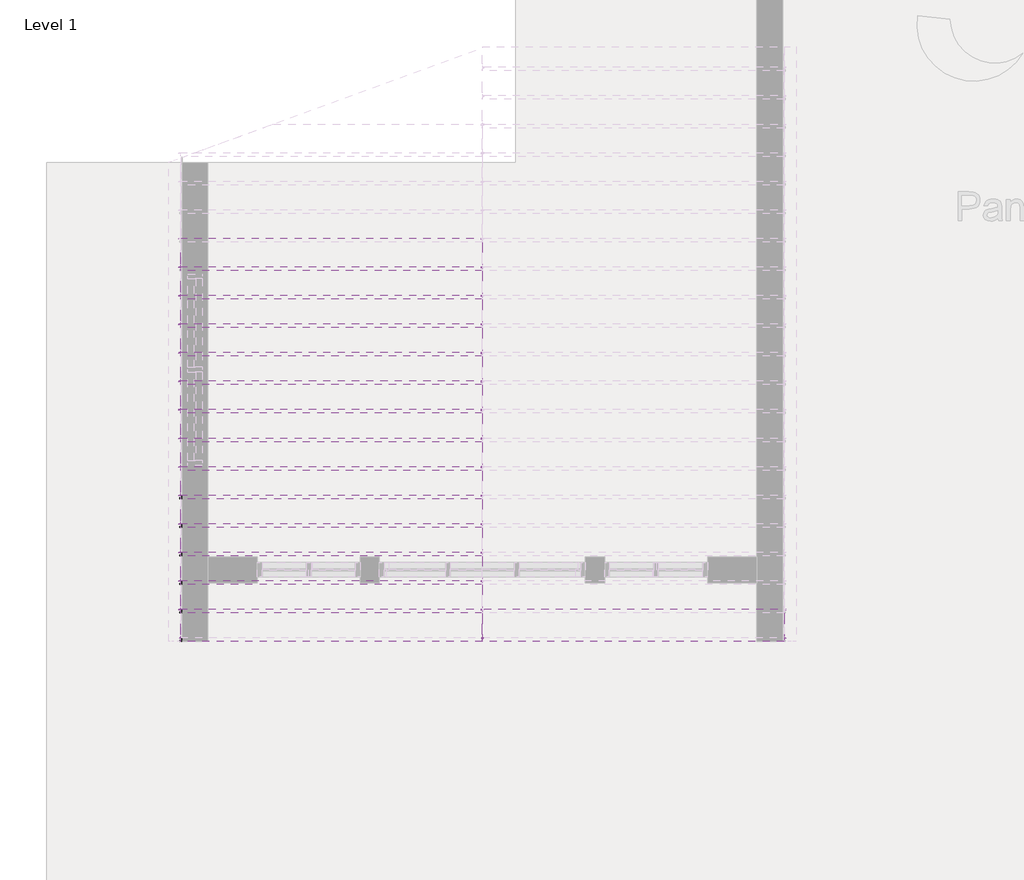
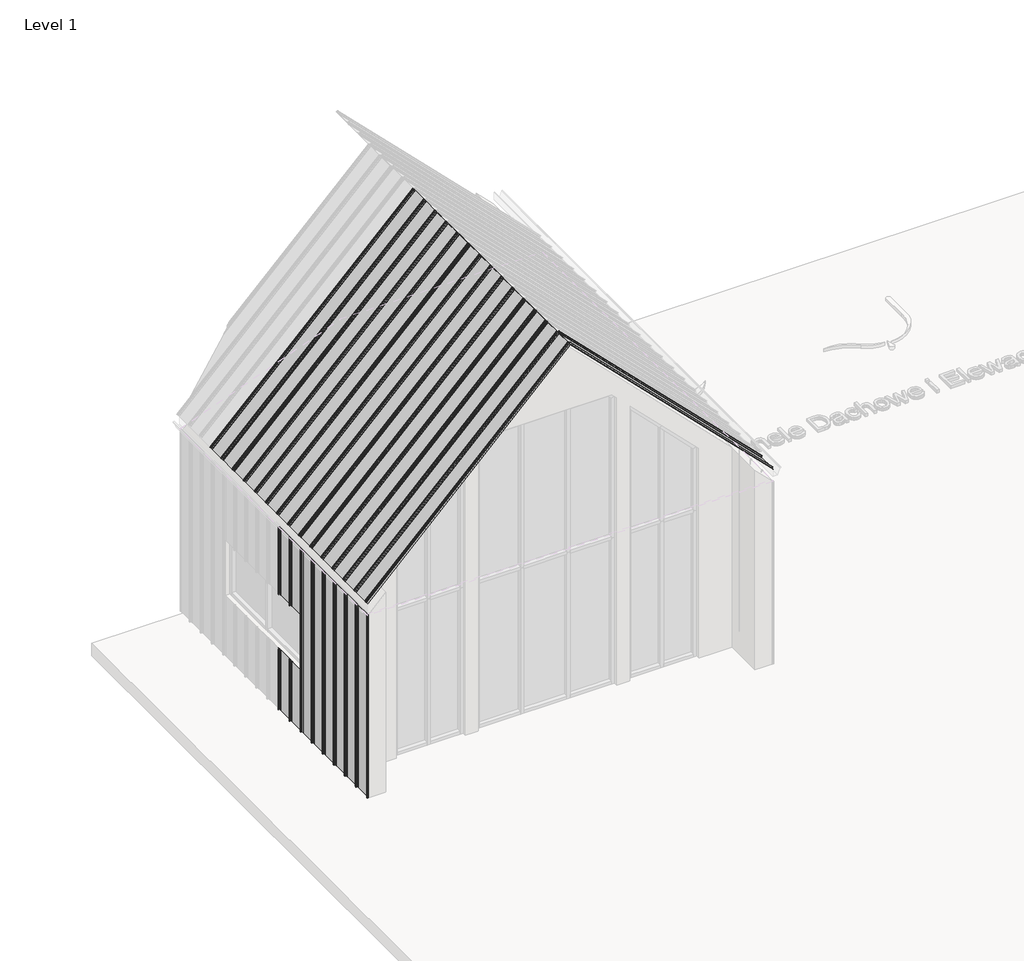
# One storey, part 3 of 24: 23 proxies.
"""IFC4 building model written with IfcOpenShell, lengths in millimetres."""

from ifc_helpers import new_model, si_unit, point, frame, frame_2d, origin, place, context, project, spatial, polyline, circle_curve, trimmed, segment, composite_curve, outline, extrude, transform, mapped, element, save
from components import aqua_slim_97a0cb55, aqua_slim_27351003

model = new_model("IFC4")

# Units and contexts
model_context = context("Model", 3, world=origin())
ifc_project = project(units=[si_unit("LENGTHUNIT", "METRE", prefix="MILLI")], contexts=[model_context])

# Site, building, storey
site = spatial("IfcSite", under=ifc_project)
building = spatial("IfcBuilding", under=site)
storey = spatial("IfcBuildingStorey", under=building, Name="Level 1", Elevation=0.0)

# Proxies
placement = place(None, origin())
element("IfcBuildingElementProxy", 1, Name="AQUAPLAST - Panel Dachowy i Elewacyjny Aqua Slim : Aqua Slim", ObjectType="AQUAPLAST - Panel Dachowy i Elewacyjny Aqua Slim : Aqua Slim", at=placement, inside=storey, context=model_context, shape_type="SweptSolid", body=[
    extrude(outline(polyline([(0.0, 227.2000503), (4454.0, 227.2000503), (4454.0, 0.0), (0.0, 0.0), (0.0, 227.2000503)])), frame((-5286.5167864, 8737.4302375, 6945.4435021), z_axis=(0.7071067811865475, 0.0, 0.7071067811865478), x_axis=(0.7071067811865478, 0.0, -0.7071067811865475)), (0.0, 0.0, 1.0), 0.8),
    extrude(outline(composite_curve([segment(polyline([(1.6, -36.6), (0.8, -40.1), (0.0, -40.1), (0.8000601, -36.6), (0.8000601, -12.7000752)]), True, "CONTINUOUS"), segment(trimmed(circle_curve(frame_2d((1.2999699, -12.7000752)), 0.4999098), [point((0.8000601, -12.7000752))], [point((1.2999699, -12.2001654))], False, "CARTESIAN"), True, "CONTINUOUS"), segment(polyline([(1.2999699, -12.2001654), (23.7003195, -12.2001654)]), True, "CONTINUOUS"), segment(trimmed(circle_curve(frame_2d((23.7003195, -11.6998422)), 0.5003233), [point((23.7003195, -12.2001654))], [point((24.2006428, -11.6998422))], True, "CARTESIAN"), True, "CONTINUOUS"), segment(polyline([(24.2006428, -11.6998422), (24.2006428, -1.2033228)]), True, "CONTINUOUS"), segment(trimmed(circle_curve(frame_2d((23.6993591, -1.2033228)), 0.5012837), [point((24.2006428, -1.2033228))], [point((23.6993591, -0.7020391))], True, "CARTESIAN"), True, "CONTINUOUS"), segment(polyline([(23.6993591, -0.7020391), (9.7850119, -0.7020391)]), True, "CONTINUOUS"), segment(trimmed(circle_curve(frame_2d((9.7850119, -1.6460516)), 0.9440125), [point((9.7850119, -0.7020391))], [point((8.9478642, -1.2097679))], True, "CARTESIAN"), True, "CONTINUOUS"), segment(trimmed(circle_curve(frame_2d((5.4137845, -0.6808077)), 3.5734462), [point((8.9478642, -1.2097679))], [point((1.8403383, -0.6808077))], False, "CARTESIAN"), True, "CONTINUOUS"), segment(polyline([(1.8403383, -0.6808077), (2.6405793, -0.6808077)]), True, "CONTINUOUS"), segment(trimmed(circle_curve(frame_2d((5.3847864, -0.6808077)), 2.7442071), [point((2.6405793, -0.6808077))], [point((8.1289934, -0.6808077))], True, "CARTESIAN"), True, "CONTINUOUS"), segment(trimmed(circle_curve(frame_2d((8.8039224, -0.6749544)), 0.6749543), [point((8.1289934, -0.6808077))], [point((8.8039224, 0.0))], False, "CARTESIAN"), True, "CONTINUOUS"), segment(polyline([(8.8039224, 0.0), (24.5, 0.0)]), True, "CONTINUOUS"), segment(trimmed(circle_curve(frame_2d((24.5, -0.5)), 0.5), [point((24.5, 0.0))], [point((25.0, -0.5))], False, "CARTESIAN"), True, "CONTINUOUS"), segment(polyline([(25.0, -0.5), (25.0, -12.5)]), True, "CONTINUOUS"), segment(trimmed(circle_curve(frame_2d((24.5, -12.5)), 0.5), [point((25.0, -12.5))], [point((24.5, -13.0))], False, "CARTESIAN"), True, "CONTINUOUS"), segment(polyline([(24.5, -13.0), (2.1, -13.0)]), True, "CONTINUOUS"), segment(trimmed(circle_curve(frame_2d((2.1, -13.5)), 0.5), [point((2.1, -13.0))], [point((1.6, -13.5))], True, "CARTESIAN"), True, "CONTINUOUS"), segment(polyline([(1.6, -13.5), (1.6, -36.6)]), True, "CONTINUOUS")], self_intersect=False)), frame((-2137.063183, 9004.7302878, 3795.9898987), z_axis=(-0.7071067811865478, 0.0, 0.7071067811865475), x_axis=(0.7071067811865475, 0.0, 0.7071067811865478)), (0.0, 0.0, 1.0), 4454.0),
    extrude(outline(composite_curve([segment(polyline([(0.8, 0.0), (0.0, 0.0), (0.0, 30.3277327)]), True, "CONTINUOUS"), segment(trimmed(circle_curve(frame_2d((0.7400208, 30.3277327)), 0.7400208), [point((0.0, 30.3277327))], [point((0.6241817, 31.0586308))], False, "CARTESIAN"), True, "CONTINUOUS"), segment(polyline([(0.6241817, 31.0586308), (18.4803327, 33.8886302)]), True, "CONTINUOUS"), segment(trimmed(circle_curve(frame_2d((18.1818617, 35.771861)), 1.9067363), [point((18.4803327, 33.8886302))], [point((19.1352298, 37.4231431))], True, "CARTESIAN"), True, "CONTINUOUS"), segment(polyline([(19.1352298, 37.4231431), (11.8934079, 40.3349068)]), True, "CONTINUOUS"), segment(trimmed(circle_curve(frame_2d((11.2676679, 38.7786343)), 1.6773594), [point((11.8934079, 40.3349068))], [point((9.7513874, 39.4958707))], True, "CARTESIAN"), True, "CONTINUOUS"), segment(trimmed(circle_curve(frame_2d((5.5014361, 41.5061979)), 4.7014361), [point((9.7513874, 39.4958707))], [point((0.8, 41.5061979))], False, "CARTESIAN"), True, "CONTINUOUS"), segment(polyline([(0.8, 41.5061979), (0.8, 69.1999497), (0.0, 72.6999497), (0.8, 72.6999497), (1.6, 69.1999497), (1.6, 41.3470224)]), True, "CONTINUOUS"), segment(trimmed(circle_curve(frame_2d((5.4667311, 41.3470224)), 3.8667311), [point((1.6, 41.3470224))], [point((9.0024093, 39.7815866))], True, "CARTESIAN"), True, "CONTINUOUS"), segment(trimmed(circle_curve(frame_2d((11.2676679, 38.7786343)), 2.4773594), [point((9.0024093, 39.7815866))], [point((12.1941629, 41.0762236))], False, "CARTESIAN"), True, "CONTINUOUS"), segment(polyline([(12.1941629, 41.0762236), (19.5352299, 38.1159634)]), True, "CONTINUOUS"), segment(trimmed(circle_curve(frame_2d((18.1818617, 35.771861)), 2.7067363), [point((19.5352299, 38.1159634))], [point((18.7653554, 33.1287651))], False, "CARTESIAN"), True, "CONTINUOUS"), segment(polyline([(18.7653554, 33.1287651), (1.3501315, 30.0958084)]), True, "CONTINUOUS"), segment(trimmed(circle_curve(frame_2d((1.4640676, 29.441588)), 0.6640676), [point((1.3501315, 30.0958084))], [point((0.8, 29.441588))], True, "CARTESIAN"), True, "CONTINUOUS"), segment(polyline([(0.8, 29.441588), (0.8, 0.0)]), True, "CONTINUOUS")], self_intersect=False)), frame((-2137.063183, 8664.7302878, 3795.9898987), z_axis=(-0.7071067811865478, 0.0, 0.7071067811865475), x_axis=(0.7071067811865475, 0.0, 0.7071067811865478)), (0.0, 0.0, 1.0), 4454.0),
])
element("IfcBuildingElementProxy", 2, Name="AQUAPLAST - Panel Dachowy i Elewacyjny Aqua Slim : Aqua Slim", ObjectType="AQUAPLAST - Panel Dachowy i Elewacyjny Aqua Slim : Aqua Slim", at=placement, inside=storey, context=model_context, shape_type="SweptSolid", body=[
    extrude(outline(polyline([(10492.1494801, 3597.0), (10719.3495304, 3597.0), (10719.3495304, 2498.0), (10504.7302878, 2498.0), (10504.7302878, 1598.0), (10719.3495304, 1598.0), (10719.3495304, 600.0), (10492.1494801, 600.0), (10492.1494801, 3597.0)])), frame((-8422.863183, 0.0, 0.0), z_axis=(1.0, 0.0, 0.0), x_axis=(0.0, 1.0, 0.0)), (0.0, 0.0, 1.0), 0.8),
    extrude(outline(composite_curve([segment(polyline([(-8423.663183, 10488.6494801), (-8422.863183, 10492.1494801), (-8422.063183, 10492.1494801), (-8422.8632432, 10488.6494801), (-8422.8632432, 10464.7495553)]), True, "CONTINUOUS"), segment(trimmed(circle_curve(frame_2d((-8423.363153, 10464.7495553)), 0.4999098), [point((-8422.8632432, 10464.7495553))], [point((-8423.363153, 10464.2496455))], False, "CARTESIAN"), True, "CONTINUOUS"), segment(polyline([(-8423.363153, 10464.2496455), (-8445.7635025, 10464.2496455)]), True, "CONTINUOUS"), segment(trimmed(circle_curve(frame_2d((-8445.7635025, 10463.7493222)), 0.5003233), [point((-8445.7635025, 10464.2496455))], [point((-8446.2638258, 10463.7493222))], True, "CARTESIAN"), True, "CONTINUOUS"), segment(polyline([(-8446.2638258, 10463.7493222), (-8446.2638258, 10453.2528028)]), True, "CONTINUOUS"), segment(trimmed(circle_curve(frame_2d((-8445.7625421, 10453.2528028)), 0.5012837), [point((-8446.2638258, 10453.2528028))], [point((-8445.7625421, 10452.7515191))], True, "CARTESIAN"), True, "CONTINUOUS"), segment(polyline([(-8445.7625421, 10452.7515191), (-8431.8481949, 10452.7515191)]), True, "CONTINUOUS"), segment(trimmed(circle_curve(frame_2d((-8431.8481949, 10453.6955317)), 0.9440125), [point((-8431.8481949, 10452.7515191))], [point((-8431.0110473, 10453.259248))], True, "CARTESIAN"), True, "CONTINUOUS"), segment(trimmed(circle_curve(frame_2d((-8427.4769676, 10452.7302878)), 3.5734462), [point((-8431.0110473, 10453.259248))], [point((-8423.9035214, 10452.7302878))], False, "CARTESIAN"), True, "CONTINUOUS"), segment(polyline([(-8423.9035214, 10452.7302878), (-8424.7037623, 10452.7302878)]), True, "CONTINUOUS"), segment(trimmed(circle_curve(frame_2d((-8427.4479694, 10452.7302878)), 2.7442071), [point((-8424.7037623, 10452.7302878))], [point((-8430.1921764, 10452.7302878))], True, "CARTESIAN"), True, "CONTINUOUS"), segment(trimmed(circle_curve(frame_2d((-8430.8671054, 10452.7244344)), 0.6749543), [point((-8430.1921764, 10452.7302878))], [point((-8430.8671054, 10452.0494801))], False, "CARTESIAN"), True, "CONTINUOUS"), segment(polyline([(-8430.8671054, 10452.0494801), (-8446.563183, 10452.0494801)]), True, "CONTINUOUS"), segment(trimmed(circle_curve(frame_2d((-8446.563183, 10452.5494801)), 0.5), [point((-8446.563183, 10452.0494801))], [point((-8447.063183, 10452.5494801))], False, "CARTESIAN"), True, "CONTINUOUS"), segment(polyline([(-8447.063183, 10452.5494801), (-8447.063183, 10464.5494801)]), True, "CONTINUOUS"), segment(trimmed(circle_curve(frame_2d((-8446.563183, 10464.5494801)), 0.5), [point((-8447.063183, 10464.5494801))], [point((-8446.563183, 10465.0494801))], False, "CARTESIAN"), True, "CONTINUOUS"), segment(polyline([(-8446.563183, 10465.0494801), (-8424.163183, 10465.0494801)]), True, "CONTINUOUS"), segment(trimmed(circle_curve(frame_2d((-8424.163183, 10465.5494801)), 0.5), [point((-8424.163183, 10465.0494801))], [point((-8423.663183, 10465.5494801))], True, "CARTESIAN"), True, "CONTINUOUS"), segment(polyline([(-8423.663183, 10465.5494801), (-8423.663183, 10488.6494801)]), True, "CONTINUOUS")], self_intersect=False)), frame((0.0, 0.0, 600.0), z_axis=(0.0, 0.0, 1.0), x_axis=(1.0, 0.0, 0.0)), (0.0, 0.0, 1.0), 2997.0),
    extrude(outline(composite_curve([segment(polyline([(-8422.863183, 10792.0494801), (-8422.063183, 10792.0494801), (-8422.063183, 10761.7217474)]), True, "CONTINUOUS"), segment(trimmed(circle_curve(frame_2d((-8422.8032039, 10761.7217474)), 0.7400208), [point((-8422.063183, 10761.7217474))], [point((-8422.6873647, 10760.9908492))], False, "CARTESIAN"), True, "CONTINUOUS"), segment(polyline([(-8422.6873647, 10760.9908492), (-8440.5435157, 10758.1608498)]), True, "CONTINUOUS"), segment(trimmed(circle_curve(frame_2d((-8440.2450447, 10756.277619)), 1.9067363), [point((-8440.5435157, 10758.1608498))], [point((-8441.1984129, 10754.626337))], True, "CARTESIAN"), True, "CONTINUOUS"), segment(polyline([(-8441.1984129, 10754.626337), (-8433.9565909, 10751.7145733)]), True, "CONTINUOUS"), segment(trimmed(circle_curve(frame_2d((-8433.3308509, 10753.2708458)), 1.6773594), [point((-8433.9565909, 10751.7145733))], [point((-8431.8145704, 10752.5536094))], True, "CARTESIAN"), True, "CONTINUOUS"), segment(trimmed(circle_curve(frame_2d((-8427.5646191, 10750.5432822)), 4.7014361), [point((-8431.8145704, 10752.5536094))], [point((-8422.863183, 10750.5432822))], False, "CARTESIAN"), True, "CONTINUOUS"), segment(polyline([(-8422.863183, 10750.5432822), (-8422.863183, 10722.8495304), (-8422.063183, 10719.3495304), (-8422.863183, 10719.3495304), (-8423.663183, 10722.8495304), (-8423.663183, 10750.7024576)]), True, "CONTINUOUS"), segment(trimmed(circle_curve(frame_2d((-8427.5299142, 10750.7024576)), 3.8667311), [point((-8423.663183, 10750.7024576))], [point((-8431.0655924, 10752.2678934))], True, "CARTESIAN"), True, "CONTINUOUS"), segment(trimmed(circle_curve(frame_2d((-8433.3308509, 10753.2708458)), 2.4773594), [point((-8431.0655924, 10752.2678934))], [point((-8434.257346, 10750.9732565))], False, "CARTESIAN"), True, "CONTINUOUS"), segment(polyline([(-8434.257346, 10750.9732565), (-8441.5984129, 10753.9335166)]), True, "CONTINUOUS"), segment(trimmed(circle_curve(frame_2d((-8440.2450447, 10756.277619)), 2.7067363), [point((-8441.5984129, 10753.9335166))], [point((-8440.8285384, 10758.920715))], False, "CARTESIAN"), True, "CONTINUOUS"), segment(polyline([(-8440.8285384, 10758.920715), (-8423.4133146, 10761.9536717)]), True, "CONTINUOUS"), segment(trimmed(circle_curve(frame_2d((-8423.5272506, 10762.6078921)), 0.6640676), [point((-8423.4133146, 10761.9536717))], [point((-8422.863183, 10762.6078921))], True, "CARTESIAN"), True, "CONTINUOUS"), segment(polyline([(-8422.863183, 10762.6078921), (-8422.863183, 10792.0494801)]), True, "CONTINUOUS")], self_intersect=False)), frame((0.0, 0.0, 2498.0), z_axis=(0.0, 0.0, 1.0), x_axis=(1.0, 0.0, 0.0)), (0.0, 0.0, 1.0), 1099.0),
    extrude(outline(composite_curve([segment(polyline([(-8422.863183, 10792.0494801), (-8422.063183, 10792.0494801), (-8422.063183, 10761.7217474)]), True, "CONTINUOUS"), segment(trimmed(circle_curve(frame_2d((-8422.8032039, 10761.7217474)), 0.7400208), [point((-8422.063183, 10761.7217474))], [point((-8422.6873647, 10760.9908492))], False, "CARTESIAN"), True, "CONTINUOUS"), segment(polyline([(-8422.6873647, 10760.9908492), (-8440.5435157, 10758.1608498)]), True, "CONTINUOUS"), segment(trimmed(circle_curve(frame_2d((-8440.2450447, 10756.277619)), 1.9067363), [point((-8440.5435157, 10758.1608498))], [point((-8441.1984129, 10754.626337))], True, "CARTESIAN"), True, "CONTINUOUS"), segment(polyline([(-8441.1984129, 10754.626337), (-8433.9565909, 10751.7145733)]), True, "CONTINUOUS"), segment(trimmed(circle_curve(frame_2d((-8433.3308509, 10753.2708458)), 1.6773594), [point((-8433.9565909, 10751.7145733))], [point((-8431.8145704, 10752.5536094))], True, "CARTESIAN"), True, "CONTINUOUS"), segment(trimmed(circle_curve(frame_2d((-8427.5646191, 10750.5432822)), 4.7014361), [point((-8431.8145704, 10752.5536094))], [point((-8422.863183, 10750.5432822))], False, "CARTESIAN"), True, "CONTINUOUS"), segment(polyline([(-8422.863183, 10750.5432822), (-8422.863183, 10722.8495304), (-8422.063183, 10719.3495304), (-8422.863183, 10719.3495304), (-8423.663183, 10722.8495304), (-8423.663183, 10750.7024576)]), True, "CONTINUOUS"), segment(trimmed(circle_curve(frame_2d((-8427.5299142, 10750.7024576)), 3.8667311), [point((-8423.663183, 10750.7024576))], [point((-8431.0655924, 10752.2678934))], True, "CARTESIAN"), True, "CONTINUOUS"), segment(trimmed(circle_curve(frame_2d((-8433.3308509, 10753.2708458)), 2.4773594), [point((-8431.0655924, 10752.2678934))], [point((-8434.257346, 10750.9732565))], False, "CARTESIAN"), True, "CONTINUOUS"), segment(polyline([(-8434.257346, 10750.9732565), (-8441.5984129, 10753.9335166)]), True, "CONTINUOUS"), segment(trimmed(circle_curve(frame_2d((-8440.2450447, 10756.277619)), 2.7067363), [point((-8441.5984129, 10753.9335166))], [point((-8440.8285384, 10758.920715))], False, "CARTESIAN"), True, "CONTINUOUS"), segment(polyline([(-8440.8285384, 10758.920715), (-8423.4133146, 10761.9536717)]), True, "CONTINUOUS"), segment(trimmed(circle_curve(frame_2d((-8423.5272506, 10762.6078921)), 0.6640676), [point((-8423.4133146, 10761.9536717))], [point((-8422.863183, 10762.6078921))], True, "CARTESIAN"), True, "CONTINUOUS"), segment(polyline([(-8422.863183, 10762.6078921), (-8422.863183, 10792.0494801)]), True, "CONTINUOUS")], self_intersect=False)), frame((0.0, 0.0, 600.0), z_axis=(0.0, 0.0, 1.0), x_axis=(1.0, 0.0, 0.0)), (0.0, 0.0, 1.0), 998.0),
])
element("IfcBuildingElementProxy", 3, Name="AQUAPLAST - Panel Dachowy i Elewacyjny Aqua Slim : Aqua Slim", ObjectType="AQUAPLAST - Panel Dachowy i Elewacyjny Aqua Slim : Aqua Slim", at=placement, inside=storey, context=model_context, shape_type="SweptSolid", body=[
    extrude(outline(polyline([(-8422.863183, 10790.1494801), (-8422.863183, 11017.3495304), (-8422.063183, 11017.3495304), (-8422.063183, 10790.1494801), (-8422.863183, 10790.1494801)])), frame((0.0, 0.0, 2498.0), z_axis=(0.0, 0.0, 1.0), x_axis=(1.0, 0.0, 0.0)), (0.0, 0.0, 1.0), 1099.0),
    extrude(outline(polyline([(-8422.863183, 10790.1494801), (-8422.863183, 11017.3495304), (-8422.063183, 11017.3495304), (-8422.063183, 10790.1494801), (-8422.863183, 10790.1494801)])), frame((0.0, 0.0, 600.0), z_axis=(0.0, 0.0, 1.0), x_axis=(1.0, 0.0, 0.0)), (0.0, 0.0, 1.0), 998.0),
    extrude(outline(composite_curve([segment(polyline([(-8422.063183, 10790.1494801), (-8422.8632432, 10786.6494801), (-8422.8632432, 10762.7495553)]), True, "CONTINUOUS"), segment(trimmed(circle_curve(frame_2d((-8423.363153, 10762.7495553)), 0.4999098), [point((-8422.8632432, 10762.7495553))], [point((-8423.363153, 10762.2496455))], False, "CARTESIAN"), True, "CONTINUOUS"), segment(polyline([(-8423.363153, 10762.2496455), (-8445.7635025, 10762.2496455)]), True, "CONTINUOUS"), segment(trimmed(circle_curve(frame_2d((-8445.7635025, 10761.7493222)), 0.5003233), [point((-8445.7635025, 10762.2496455))], [point((-8446.2638258, 10761.7493222))], True, "CARTESIAN"), True, "CONTINUOUS"), segment(polyline([(-8446.2638258, 10761.7493222), (-8446.2638258, 10751.2528028)]), True, "CONTINUOUS"), segment(trimmed(circle_curve(frame_2d((-8445.7625421, 10751.2528028)), 0.5012837), [point((-8446.2638258, 10751.2528028))], [point((-8445.7625421, 10750.7515191))], True, "CARTESIAN"), True, "CONTINUOUS"), segment(polyline([(-8445.7625421, 10750.7515191), (-8431.8481949, 10750.7515191)]), True, "CONTINUOUS"), segment(trimmed(circle_curve(frame_2d((-8431.8481949, 10751.6955317)), 0.9440125), [point((-8431.8481949, 10750.7515191))], [point((-8431.0110473, 10751.259248))], True, "CARTESIAN"), True, "CONTINUOUS"), segment(trimmed(circle_curve(frame_2d((-8427.4769676, 10750.7302878)), 3.5734462), [point((-8431.0110473, 10751.259248))], [point((-8423.9035214, 10750.7302878))], False, "CARTESIAN"), True, "CONTINUOUS"), segment(polyline([(-8423.9035214, 10750.7302878), (-8424.7037623, 10750.7302878)]), True, "CONTINUOUS"), segment(trimmed(circle_curve(frame_2d((-8427.4479694, 10750.7302878)), 2.7442071), [point((-8424.7037623, 10750.7302878))], [point((-8430.1921764, 10750.7302878))], True, "CARTESIAN"), True, "CONTINUOUS"), segment(trimmed(circle_curve(frame_2d((-8430.8671054, 10750.7244344)), 0.6749543), [point((-8430.1921764, 10750.7302878))], [point((-8430.8671054, 10750.0494801))], False, "CARTESIAN"), True, "CONTINUOUS"), segment(polyline([(-8430.8671054, 10750.0494801), (-8446.563183, 10750.0494801)]), True, "CONTINUOUS"), segment(trimmed(circle_curve(frame_2d((-8446.563183, 10750.5494801)), 0.5), [point((-8446.563183, 10750.0494801))], [point((-8447.063183, 10750.5494801))], False, "CARTESIAN"), True, "CONTINUOUS"), segment(polyline([(-8447.063183, 10750.5494801), (-8447.063183, 10762.5494801)]), True, "CONTINUOUS"), segment(trimmed(circle_curve(frame_2d((-8446.563183, 10762.5494801)), 0.5), [point((-8447.063183, 10762.5494801))], [point((-8446.563183, 10763.0494801))], False, "CARTESIAN"), True, "CONTINUOUS"), segment(polyline([(-8446.563183, 10763.0494801), (-8424.163183, 10763.0494801)]), True, "CONTINUOUS"), segment(trimmed(circle_curve(frame_2d((-8424.163183, 10763.5494801)), 0.5), [point((-8424.163183, 10763.0494801))], [point((-8423.663183, 10763.5494801))], True, "CARTESIAN"), True, "CONTINUOUS"), segment(polyline([(-8423.663183, 10763.5494801), (-8423.663183, 10786.6494801), (-8422.863183, 10790.1494801), (-8422.063183, 10790.1494801)]), True, "CONTINUOUS")], self_intersect=False)), frame((0.0, 0.0, 2498.0), z_axis=(0.0, 0.0, 1.0), x_axis=(1.0, 0.0, 0.0)), (0.0, 0.0, 1.0), 1099.0),
    extrude(outline(composite_curve([segment(polyline([(-8423.663183, 10786.6494801), (-8422.863183, 10790.1494801), (-8422.063183, 10790.1494801), (-8422.8632432, 10786.6494801), (-8422.8632432, 10762.7495553)]), True, "CONTINUOUS"), segment(trimmed(circle_curve(frame_2d((-8423.363153, 10762.7495553)), 0.4999098), [point((-8422.8632432, 10762.7495553))], [point((-8423.363153, 10762.2496455))], False, "CARTESIAN"), True, "CONTINUOUS"), segment(polyline([(-8423.363153, 10762.2496455), (-8445.7635025, 10762.2496455)]), True, "CONTINUOUS"), segment(trimmed(circle_curve(frame_2d((-8445.7635025, 10761.7493222)), 0.5003233), [point((-8445.7635025, 10762.2496455))], [point((-8446.2638258, 10761.7493222))], True, "CARTESIAN"), True, "CONTINUOUS"), segment(polyline([(-8446.2638258, 10761.7493222), (-8446.2638258, 10751.2528028)]), True, "CONTINUOUS"), segment(trimmed(circle_curve(frame_2d((-8445.7625421, 10751.2528028)), 0.5012837), [point((-8446.2638258, 10751.2528028))], [point((-8445.7625421, 10750.7515191))], True, "CARTESIAN"), True, "CONTINUOUS"), segment(polyline([(-8445.7625421, 10750.7515191), (-8431.8481949, 10750.7515191)]), True, "CONTINUOUS"), segment(trimmed(circle_curve(frame_2d((-8431.8481949, 10751.6955317)), 0.9440125), [point((-8431.8481949, 10750.7515191))], [point((-8431.0110473, 10751.259248))], True, "CARTESIAN"), True, "CONTINUOUS"), segment(trimmed(circle_curve(frame_2d((-8427.4769676, 10750.7302878)), 3.5734462), [point((-8431.0110473, 10751.259248))], [point((-8423.9035214, 10750.7302878))], False, "CARTESIAN"), True, "CONTINUOUS"), segment(polyline([(-8423.9035214, 10750.7302878), (-8424.7037623, 10750.7302878)]), True, "CONTINUOUS"), segment(trimmed(circle_curve(frame_2d((-8427.4479694, 10750.7302878)), 2.7442071), [point((-8424.7037623, 10750.7302878))], [point((-8430.1921764, 10750.7302878))], True, "CARTESIAN"), True, "CONTINUOUS"), segment(trimmed(circle_curve(frame_2d((-8430.8671054, 10750.7244344)), 0.6749543), [point((-8430.1921764, 10750.7302878))], [point((-8430.8671054, 10750.0494801))], False, "CARTESIAN"), True, "CONTINUOUS"), segment(polyline([(-8430.8671054, 10750.0494801), (-8446.563183, 10750.0494801)]), True, "CONTINUOUS"), segment(trimmed(circle_curve(frame_2d((-8446.563183, 10750.5494801)), 0.5), [point((-8446.563183, 10750.0494801))], [point((-8447.063183, 10750.5494801))], False, "CARTESIAN"), True, "CONTINUOUS"), segment(polyline([(-8447.063183, 10750.5494801), (-8447.063183, 10762.5494801)]), True, "CONTINUOUS"), segment(trimmed(circle_curve(frame_2d((-8446.563183, 10762.5494801)), 0.5), [point((-8447.063183, 10762.5494801))], [point((-8446.563183, 10763.0494801))], False, "CARTESIAN"), True, "CONTINUOUS"), segment(polyline([(-8446.563183, 10763.0494801), (-8424.163183, 10763.0494801)]), True, "CONTINUOUS"), segment(trimmed(circle_curve(frame_2d((-8424.163183, 10763.5494801)), 0.5), [point((-8424.163183, 10763.0494801))], [point((-8423.663183, 10763.5494801))], True, "CARTESIAN"), True, "CONTINUOUS"), segment(polyline([(-8423.663183, 10763.5494801), (-8423.663183, 10786.6494801)]), True, "CONTINUOUS")], self_intersect=False)), frame((0.0, 0.0, 600.0), z_axis=(0.0, 0.0, 1.0), x_axis=(1.0, 0.0, 0.0)), (0.0, 0.0, 1.0), 998.0),
    extrude(outline(composite_curve([segment(polyline([(-8422.863183, 11090.0494801), (-8422.063183, 11090.0494801), (-8422.063183, 11059.7217474)]), True, "CONTINUOUS"), segment(trimmed(circle_curve(frame_2d((-8422.8032039, 11059.7217474)), 0.7400208), [point((-8422.063183, 11059.7217474))], [point((-8422.6873647, 11058.9908492))], False, "CARTESIAN"), True, "CONTINUOUS"), segment(polyline([(-8422.6873647, 11058.9908492), (-8440.5435157, 11056.1608498)]), True, "CONTINUOUS"), segment(trimmed(circle_curve(frame_2d((-8440.2450447, 11054.277619)), 1.9067363), [point((-8440.5435157, 11056.1608498))], [point((-8441.1984129, 11052.626337))], True, "CARTESIAN"), True, "CONTINUOUS"), segment(polyline([(-8441.1984129, 11052.626337), (-8433.9565909, 11049.7145733)]), True, "CONTINUOUS"), segment(trimmed(circle_curve(frame_2d((-8433.3308509, 11051.2708458)), 1.6773594), [point((-8433.9565909, 11049.7145733))], [point((-8431.8145704, 11050.5536094))], True, "CARTESIAN"), True, "CONTINUOUS"), segment(trimmed(circle_curve(frame_2d((-8427.5646191, 11048.5432822)), 4.7014361), [point((-8431.8145704, 11050.5536094))], [point((-8422.863183, 11048.5432822))], False, "CARTESIAN"), True, "CONTINUOUS"), segment(polyline([(-8422.863183, 11048.5432822), (-8422.863183, 11020.8495304), (-8422.063183, 11017.3495304), (-8422.863183, 11017.3495304), (-8423.663183, 11020.8495304), (-8423.663183, 11048.7024576)]), True, "CONTINUOUS"), segment(trimmed(circle_curve(frame_2d((-8427.5299142, 11048.7024576)), 3.8667311), [point((-8423.663183, 11048.7024576))], [point((-8431.0655924, 11050.2678934))], True, "CARTESIAN"), True, "CONTINUOUS"), segment(trimmed(circle_curve(frame_2d((-8433.3308509, 11051.2708458)), 2.4773594), [point((-8431.0655924, 11050.2678934))], [point((-8434.257346, 11048.9732565))], False, "CARTESIAN"), True, "CONTINUOUS"), segment(polyline([(-8434.257346, 11048.9732565), (-8441.5984129, 11051.9335166)]), True, "CONTINUOUS"), segment(trimmed(circle_curve(frame_2d((-8440.2450447, 11054.277619)), 2.7067363), [point((-8441.5984129, 11051.9335166))], [point((-8440.8285384, 11056.920715))], False, "CARTESIAN"), True, "CONTINUOUS"), segment(polyline([(-8440.8285384, 11056.920715), (-8423.4133146, 11059.9536717)]), True, "CONTINUOUS"), segment(trimmed(circle_curve(frame_2d((-8423.5272506, 11060.6078921)), 0.6640676), [point((-8423.4133146, 11059.9536717))], [point((-8422.863183, 11060.6078921))], True, "CARTESIAN"), True, "CONTINUOUS"), segment(polyline([(-8422.863183, 11060.6078921), (-8422.863183, 11090.0494801)]), True, "CONTINUOUS")], self_intersect=False)), frame((0.0, 0.0, 2498.0), z_axis=(0.0, 0.0, 1.0), x_axis=(1.0, 0.0, 0.0)), (0.0, 0.0, 1.0), 1099.0),
    extrude(outline(composite_curve([segment(polyline([(-8422.863183, 11090.0494801), (-8422.063183, 11090.0494801), (-8422.063183, 11059.7217474)]), True, "CONTINUOUS"), segment(trimmed(circle_curve(frame_2d((-8422.8032039, 11059.7217474)), 0.7400208), [point((-8422.063183, 11059.7217474))], [point((-8422.6873647, 11058.9908492))], False, "CARTESIAN"), True, "CONTINUOUS"), segment(polyline([(-8422.6873647, 11058.9908492), (-8440.5435157, 11056.1608498)]), True, "CONTINUOUS"), segment(trimmed(circle_curve(frame_2d((-8440.2450447, 11054.277619)), 1.9067363), [point((-8440.5435157, 11056.1608498))], [point((-8441.1984129, 11052.626337))], True, "CARTESIAN"), True, "CONTINUOUS"), segment(polyline([(-8441.1984129, 11052.626337), (-8433.9565909, 11049.7145733)]), True, "CONTINUOUS"), segment(trimmed(circle_curve(frame_2d((-8433.3308509, 11051.2708458)), 1.6773594), [point((-8433.9565909, 11049.7145733))], [point((-8431.8145704, 11050.5536094))], True, "CARTESIAN"), True, "CONTINUOUS"), segment(trimmed(circle_curve(frame_2d((-8427.5646191, 11048.5432822)), 4.7014361), [point((-8431.8145704, 11050.5536094))], [point((-8422.863183, 11048.5432822))], False, "CARTESIAN"), True, "CONTINUOUS"), segment(polyline([(-8422.863183, 11048.5432822), (-8422.863183, 11020.8495304), (-8422.063183, 11017.3495304), (-8422.863183, 11017.3495304), (-8423.663183, 11020.8495304), (-8423.663183, 11048.7024576)]), True, "CONTINUOUS"), segment(trimmed(circle_curve(frame_2d((-8427.5299142, 11048.7024576)), 3.8667311), [point((-8423.663183, 11048.7024576))], [point((-8431.0655924, 11050.2678934))], True, "CARTESIAN"), True, "CONTINUOUS"), segment(trimmed(circle_curve(frame_2d((-8433.3308509, 11051.2708458)), 2.4773594), [point((-8431.0655924, 11050.2678934))], [point((-8434.257346, 11048.9732565))], False, "CARTESIAN"), True, "CONTINUOUS"), segment(polyline([(-8434.257346, 11048.9732565), (-8441.5984129, 11051.9335166)]), True, "CONTINUOUS"), segment(trimmed(circle_curve(frame_2d((-8440.2450447, 11054.277619)), 2.7067363), [point((-8441.5984129, 11051.9335166))], [point((-8440.8285384, 11056.920715))], False, "CARTESIAN"), True, "CONTINUOUS"), segment(polyline([(-8440.8285384, 11056.920715), (-8423.4133146, 11059.9536717)]), True, "CONTINUOUS"), segment(trimmed(circle_curve(frame_2d((-8423.5272506, 11060.6078921)), 0.6640676), [point((-8423.4133146, 11059.9536717))], [point((-8422.863183, 11060.6078921))], True, "CARTESIAN"), True, "CONTINUOUS"), segment(polyline([(-8422.863183, 11060.6078921), (-8422.863183, 11090.0494801)]), True, "CONTINUOUS")], self_intersect=False)), frame((0.0, 0.0, 600.0), z_axis=(0.0, 0.0, 1.0), x_axis=(1.0, 0.0, 0.0)), (0.0, 0.0, 1.0), 998.0),
])
aqua_slim_shape = aqua_slim_97a0cb55(model_context)
element("IfcBuildingElementProxy", 4, Name="AQUAPLAST - Panel Dachowy i Elewacyjny Aqua Slim : Aqua Slim", ObjectType="AQUAPLAST - Panel Dachowy i Elewacyjny Aqua Slim : Aqua Slim", at=placement, inside=storey, context=model_context, shape_type="MappedRepresentation", body=[
    mapped(aqua_slim_shape, transform((-8437.063183, 8833.1302878, 3795.9898987), x_axis=(0.0, -1.0, 0.0), y_axis=(0.7071067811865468, 0.0, 0.7071067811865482), z_axis=(-0.7071067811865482, 0.0, 0.7071067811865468))),
])
element("IfcBuildingElementProxy", 5, Name="AQUAPLAST - Panel Dachowy i Elewacyjny Aqua Slim : Aqua Slim", ObjectType="AQUAPLAST - Panel Dachowy i Elewacyjny Aqua Slim : Aqua Slim", at=placement, inside=storey, context=model_context, shape_type="MappedRepresentation", body=[
    mapped(aqua_slim_shape, transform((-8437.063183, 9131.1302878, 3795.9898987), x_axis=(0.0, -1.0, 0.0), y_axis=(0.7071067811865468, 0.0, 0.7071067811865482), z_axis=(-0.7071067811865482, 0.0, 0.7071067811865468))),
])
element("IfcBuildingElementProxy", 6, Name="AQUAPLAST - Panel Dachowy i Elewacyjny Aqua Slim : Aqua Slim", ObjectType="AQUAPLAST - Panel Dachowy i Elewacyjny Aqua Slim : Aqua Slim", at=placement, inside=storey, context=model_context, shape_type="MappedRepresentation", body=[
    mapped(aqua_slim_shape, transform((-8437.063183, 9429.1302878, 3795.9898987), x_axis=(0.0, -1.0, 0.0), y_axis=(0.7071067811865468, 0.0, 0.7071067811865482), z_axis=(-0.7071067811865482, 0.0, 0.7071067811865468))),
])
element("IfcBuildingElementProxy", 7, Name="AQUAPLAST - Panel Dachowy i Elewacyjny Aqua Slim : Aqua Slim", ObjectType="AQUAPLAST - Panel Dachowy i Elewacyjny Aqua Slim : Aqua Slim", at=placement, inside=storey, context=model_context, shape_type="MappedRepresentation", body=[
    mapped(aqua_slim_shape, transform((-8437.063183, 9727.1302878, 3795.9898987), x_axis=(0.0, -1.0, 0.0), y_axis=(0.7071067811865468, 0.0, 0.7071067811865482), z_axis=(-0.7071067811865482, 0.0, 0.7071067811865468))),
])
element("IfcBuildingElementProxy", 8, Name="AQUAPLAST - Panel Dachowy i Elewacyjny Aqua Slim : Aqua Slim", ObjectType="AQUAPLAST - Panel Dachowy i Elewacyjny Aqua Slim : Aqua Slim", at=placement, inside=storey, context=model_context, shape_type="MappedRepresentation", body=[
    mapped(aqua_slim_shape, transform((-8437.063183, 10025.1302878, 3795.9898987), x_axis=(0.0, -1.0, 0.0), y_axis=(0.7071067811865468, 0.0, 0.7071067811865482), z_axis=(-0.7071067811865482, 0.0, 0.7071067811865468))),
])
element("IfcBuildingElementProxy", 9, Name="AQUAPLAST - Panel Dachowy i Elewacyjny Aqua Slim : Aqua Slim", ObjectType="AQUAPLAST - Panel Dachowy i Elewacyjny Aqua Slim : Aqua Slim", at=placement, inside=storey, context=model_context, shape_type="MappedRepresentation", body=[
    mapped(aqua_slim_shape, transform((-8437.063183, 10323.1302878, 3795.9898987), x_axis=(0.0, -1.0, 0.0), y_axis=(0.7071067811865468, 0.0, 0.7071067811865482), z_axis=(-0.7071067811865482, 0.0, 0.7071067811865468))),
])
element("IfcBuildingElementProxy", 10, Name="AQUAPLAST - Panel Dachowy i Elewacyjny Aqua Slim : Aqua Slim", ObjectType="AQUAPLAST - Panel Dachowy i Elewacyjny Aqua Slim : Aqua Slim", at=placement, inside=storey, context=model_context, shape_type="MappedRepresentation", body=[
    mapped(aqua_slim_shape, transform((-8437.063183, 10621.1302878, 3795.9898987), x_axis=(0.0, -1.0, 0.0), y_axis=(0.7071067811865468, 0.0, 0.7071067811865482), z_axis=(-0.7071067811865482, 0.0, 0.7071067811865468))),
])
element("IfcBuildingElementProxy", 11, Name="AQUAPLAST - Panel Dachowy i Elewacyjny Aqua Slim : Aqua Slim", ObjectType="AQUAPLAST - Panel Dachowy i Elewacyjny Aqua Slim : Aqua Slim", at=placement, inside=storey, context=model_context, shape_type="MappedRepresentation", body=[
    mapped(aqua_slim_shape, transform((-8437.063183, 10919.1302878, 3795.9898987), x_axis=(0.0, -1.0, 0.0), y_axis=(0.7071067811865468, 0.0, 0.7071067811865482), z_axis=(-0.7071067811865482, 0.0, 0.7071067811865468))),
])
element("IfcBuildingElementProxy", 12, Name="AQUAPLAST - Panel Dachowy i Elewacyjny Aqua Slim : Aqua Slim", ObjectType="AQUAPLAST - Panel Dachowy i Elewacyjny Aqua Slim : Aqua Slim", at=placement, inside=storey, context=model_context, shape_type="MappedRepresentation", body=[
    mapped(aqua_slim_shape, transform((-8437.063183, 11217.1302878, 3795.9898987), x_axis=(0.0, -1.0, 0.0), y_axis=(0.7071067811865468, 0.0, 0.7071067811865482), z_axis=(-0.7071067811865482, 0.0, 0.7071067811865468))),
])
element("IfcBuildingElementProxy", 13, Name="AQUAPLAST - Panel Dachowy i Elewacyjny Aqua Slim : Aqua Slim", ObjectType="AQUAPLAST - Panel Dachowy i Elewacyjny Aqua Slim : Aqua Slim", at=placement, inside=storey, context=model_context, shape_type="MappedRepresentation", body=[
    mapped(aqua_slim_shape, transform((-8437.063183, 11515.1302878, 3795.9898987), x_axis=(0.0, -1.0, 0.0), y_axis=(0.7071067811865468, 0.0, 0.7071067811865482), z_axis=(-0.7071067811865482, 0.0, 0.7071067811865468))),
])
element("IfcBuildingElementProxy", 14, Name="AQUAPLAST - Panel Dachowy i Elewacyjny Aqua Slim : Aqua Slim", ObjectType="AQUAPLAST - Panel Dachowy i Elewacyjny Aqua Slim : Aqua Slim", at=placement, inside=storey, context=model_context, shape_type="MappedRepresentation", body=[
    mapped(aqua_slim_shape, transform((-8437.063183, 11813.1302878, 3795.9898987), x_axis=(0.0, -1.0, 0.0), y_axis=(0.7071067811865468, 0.0, 0.7071067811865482), z_axis=(-0.7071067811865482, 0.0, 0.7071067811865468))),
])
element("IfcBuildingElementProxy", 15, Name="AQUAPLAST - Panel Dachowy i Elewacyjny Aqua Slim : Aqua Slim", ObjectType="AQUAPLAST - Panel Dachowy i Elewacyjny Aqua Slim : Aqua Slim", at=placement, inside=storey, context=model_context, shape_type="MappedRepresentation", body=[
    mapped(aqua_slim_shape, transform((-8437.063183, 12111.1302878, 3795.9898987), x_axis=(0.0, -1.0, 0.0), y_axis=(0.7071067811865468, 0.0, 0.7071067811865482), z_axis=(-0.7071067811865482, 0.0, 0.7071067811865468))),
])
element("IfcBuildingElementProxy", 16, Name="AQUAPLAST - Panel Dachowy i Elewacyjny Aqua Slim : Aqua Slim", ObjectType="AQUAPLAST - Panel Dachowy i Elewacyjny Aqua Slim : Aqua Slim", at=placement, inside=storey, context=model_context, shape_type="MappedRepresentation", body=[
    mapped(aqua_slim_shape, transform((-8437.063183, 12409.1302878, 3795.9898987), x_axis=(0.0, -1.0, 0.0), y_axis=(0.7071067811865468, 0.0, 0.7071067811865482), z_axis=(-0.7071067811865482, 0.0, 0.7071067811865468))),
])
element("IfcBuildingElementProxy", 17, Name="AQUAPLAST - Panel Dachowy i Elewacyjny Aqua Slim : Aqua Slim", ObjectType="AQUAPLAST - Panel Dachowy i Elewacyjny Aqua Slim : Aqua Slim", at=placement, inside=storey, context=model_context, shape_type="MappedRepresentation", body=[
    mapped(aqua_slim_shape, transform((-8437.063183, 12707.1302878, 3795.9898987), x_axis=(0.0, -1.0, 0.0), y_axis=(0.7071067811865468, 0.0, 0.7071067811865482), z_axis=(-0.7071067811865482, 0.0, 0.7071067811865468))),
])
aqua_slim_2_shape = aqua_slim_27351003(model_context)
element("IfcBuildingElementProxy", 18, Name="AQUAPLAST - Panel Dachowy i Elewacyjny Aqua Slim : Aqua Slim", ObjectType="AQUAPLAST - Panel Dachowy i Elewacyjny Aqua Slim : Aqua Slim", at=placement, inside=storey, context=model_context, shape_type="MappedRepresentation", body=[
    mapped(aqua_slim_2_shape, transform((-8422.063183, 8835.6494801, 600.0), x_axis=(0.0, 1.0, 0.0), y_axis=(0.0, 0.0, -1.0), z_axis=(-1.0, 0.0, 0.0))),
])
element("IfcBuildingElementProxy", 19, Name="AQUAPLAST - Panel Dachowy i Elewacyjny Aqua Slim : Aqua Slim", ObjectType="AQUAPLAST - Panel Dachowy i Elewacyjny Aqua Slim : Aqua Slim", at=placement, inside=storey, context=model_context, shape_type="MappedRepresentation", body=[
    mapped(aqua_slim_2_shape, transform((-8422.063183, 9133.6494801, 600.0), x_axis=(0.0, 1.0, 0.0), y_axis=(0.0, 0.0, -1.0), z_axis=(-1.0, 0.0, 0.0))),
])
element("IfcBuildingElementProxy", 20, Name="AQUAPLAST - Panel Dachowy i Elewacyjny Aqua Slim : Aqua Slim", ObjectType="AQUAPLAST - Panel Dachowy i Elewacyjny Aqua Slim : Aqua Slim", at=placement, inside=storey, context=model_context, shape_type="MappedRepresentation", body=[
    mapped(aqua_slim_2_shape, transform((-8422.063183, 9431.6494801, 600.0), x_axis=(0.0, 1.0, 0.0), y_axis=(0.0, 0.0, -1.0), z_axis=(-1.0, 0.0, 0.0))),
])
element("IfcBuildingElementProxy", 21, Name="AQUAPLAST - Panel Dachowy i Elewacyjny Aqua Slim : Aqua Slim", ObjectType="AQUAPLAST - Panel Dachowy i Elewacyjny Aqua Slim : Aqua Slim", at=placement, inside=storey, context=model_context, shape_type="MappedRepresentation", body=[
    mapped(aqua_slim_2_shape, transform((-8422.063183, 9729.6494801, 600.0), x_axis=(0.0, 1.0, 0.0), y_axis=(0.0, 0.0, -1.0), z_axis=(-1.0, 0.0, 0.0))),
])
element("IfcBuildingElementProxy", 22, Name="AQUAPLAST - Panel Dachowy i Elewacyjny Aqua Slim : Aqua Slim", ObjectType="AQUAPLAST - Panel Dachowy i Elewacyjny Aqua Slim : Aqua Slim", at=placement, inside=storey, context=model_context, shape_type="MappedRepresentation", body=[
    mapped(aqua_slim_2_shape, transform((-8422.063183, 10027.6494801, 600.0), x_axis=(0.0, 1.0, 0.0), y_axis=(0.0, 0.0, -1.0), z_axis=(-1.0, 0.0, 0.0))),
])
element("IfcBuildingElementProxy", 23, Name="AQUAPLAST - Panel Dachowy i Elewacyjny Aqua Slim : Aqua Slim", ObjectType="AQUAPLAST - Panel Dachowy i Elewacyjny Aqua Slim : Aqua Slim", at=placement, inside=storey, context=model_context, shape_type="MappedRepresentation", body=[
    mapped(aqua_slim_2_shape, transform((-8422.063183, 10325.6494801, 600.0), x_axis=(0.0, 1.0, 0.0), y_axis=(0.0, 0.0, -1.0), z_axis=(-1.0, 0.0, 0.0))),
])

save(model, "model.ifc")
